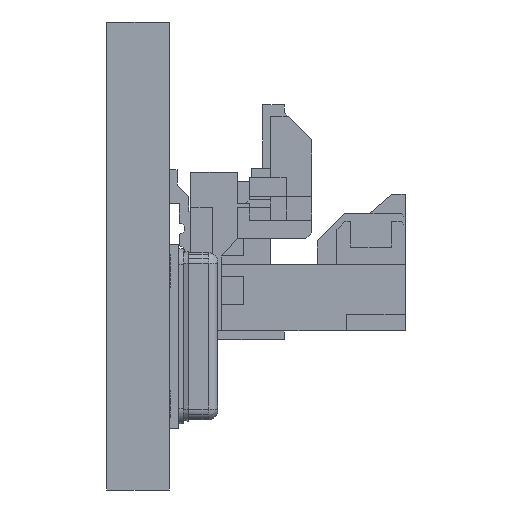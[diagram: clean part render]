
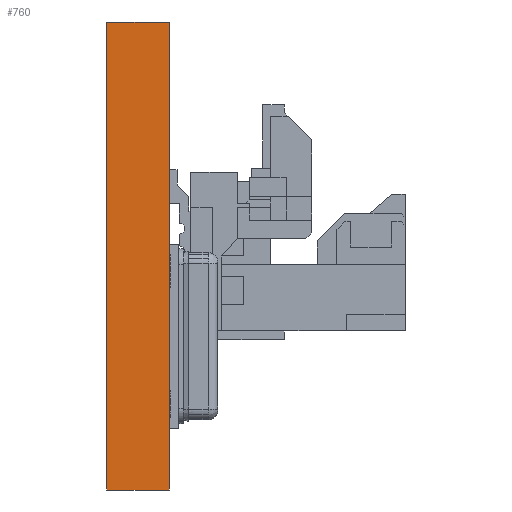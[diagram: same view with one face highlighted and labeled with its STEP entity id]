
A CAD part, left-side view. The second image highlights one B-rep face of the part: STEP entity #760.
In plain terms, the highlighted planar face has unit normal (-1, 0, 0).
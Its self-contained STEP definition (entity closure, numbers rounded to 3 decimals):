
#142=DIRECTION('',(0.,0.,1.));
#143=VECTOR('',#142,12.);
#144=CARTESIAN_POINT('',(-70.,0.,-7.));
#145=LINE('',#144,#143);
#266=DIRECTION('',(0.,0.,1.));
#267=VECTOR('',#266,12.);
#268=CARTESIAN_POINT('',(-70.,1.6,-7.));
#269=LINE('',#268,#267);
#371=DIRECTION('',(0.,1.,0.));
#372=VECTOR('',#371,1.6);
#373=CARTESIAN_POINT('',(-70.,0.,5.));
#374=LINE('',#373,#372);
#378=DIRECTION('',(0.,1.,0.));
#379=VECTOR('',#378,1.6);
#380=CARTESIAN_POINT('',(-70.,0.,-7.));
#381=LINE('',#380,#379);
#386=CARTESIAN_POINT('',(-70.,0.,-7.));
#388=VERTEX_POINT('',#386);
#390=CARTESIAN_POINT('',(-70.,1.6,-7.));
#392=VERTEX_POINT('',#390);
#441=CARTESIAN_POINT('',(-70.,0.,5.));
#443=VERTEX_POINT('',#441);
#445=CARTESIAN_POINT('',(-70.,1.6,5.));
#447=VERTEX_POINT('',#445);
#749=CARTESIAN_POINT('',(-70.,0.,-7.));
#750=DIRECTION('',(-1.,0.,0.));
#751=DIRECTION('',(0.,0.,1.));
#752=AXIS2_PLACEMENT_3D('',#749,#750,#751);
#753=PLANE('',#752);
#754=ORIENTED_EDGE('',*,*,#718,.F.);
#755=ORIENTED_EDGE('',*,*,#460,.F.);
#756=ORIENTED_EDGE('',*,*,#744,.T.);
#757=ORIENTED_EDGE('',*,*,#536,.T.);
#758=EDGE_LOOP('',(#754,#755,#756,#757));
#759=FACE_OUTER_BOUND('',#758,.F.);
#460=EDGE_CURVE('',#388,#443,#145,.T.);
#536=EDGE_CURVE('',#392,#447,#269,.T.);
#718=EDGE_CURVE('',#443,#447,#374,.T.);
#744=EDGE_CURVE('',#388,#392,#381,.T.);
#760=ADVANCED_FACE('',(#759),#753,.T.);
